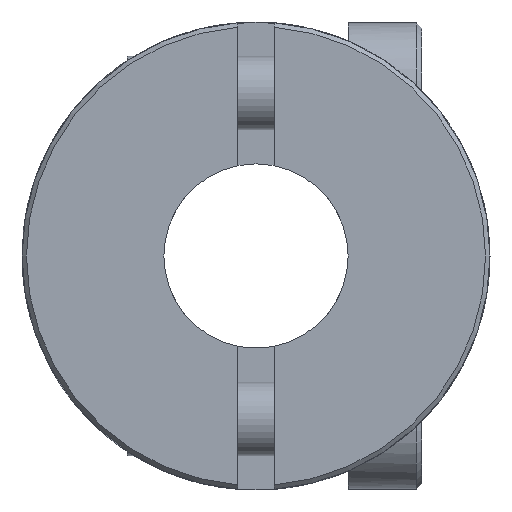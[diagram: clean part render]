
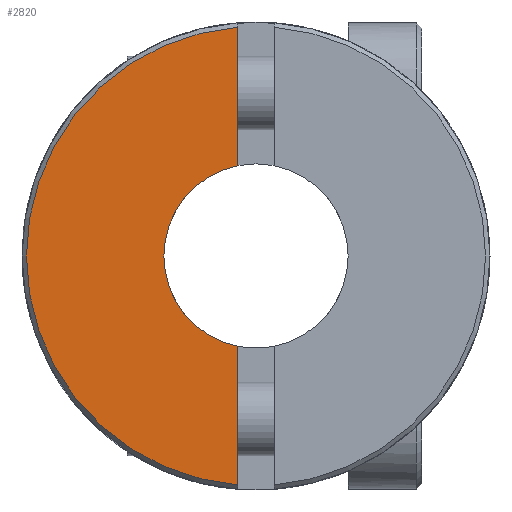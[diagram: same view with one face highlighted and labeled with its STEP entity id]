
A CAD part, front view. The second image highlights one B-rep face of the part: STEP entity #2820.
In plain terms, the highlighted planar face has unit normal (0, -1, 0).
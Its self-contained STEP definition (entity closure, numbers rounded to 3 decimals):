
#1=DIRECTION('',(0.,0.,-1.));
#2=VECTOR('',#1,3.76);
#3=CARTESIAN_POINT('',(-0.5,-9.55,6.21));
#4=LINE('',#3,#2);
#5=DIRECTION('',(0.,0.,-1.));
#6=VECTOR('',#5,3.76);
#7=CARTESIAN_POINT('',(-0.5,-9.55,-2.449));
#8=LINE('',#7,#6);
#72=CARTESIAN_POINT('',(0.,-9.55,0.));
#73=DIRECTION('',(0.,1.,0.));
#74=DIRECTION('',(-0.2,0.,-0.98));
#75=AXIS2_PLACEMENT_3D('',#72,#73,#74);
#1956=CARTESIAN_POINT('',(0.,-9.55,0.));
#1957=DIRECTION('',(0.,-1.,0.));
#1958=DIRECTION('',(-0.08,0.,0.997));
#1959=AXIS2_PLACEMENT_3D('',#1956,#1957,#1958);
#2559=CARTESIAN_POINT('',(-0.5,-9.55,6.21));
#2560=CARTESIAN_POINT('',(-0.5,-9.55,2.449));
#2561=VERTEX_POINT('',#2559);
#2562=VERTEX_POINT('',#2560);
#2563=CARTESIAN_POINT('',(-0.5,-9.55,-2.449));
#2564=CARTESIAN_POINT('',(-0.5,-9.55,-6.21));
#2565=VERTEX_POINT('',#2563);
#2566=VERTEX_POINT('',#2564);
#2805=CARTESIAN_POINT('',(0.,-9.55,0.));
#2806=DIRECTION('',(0.,1.,0.));
#2807=DIRECTION('',(1.,0.,0.));
#2808=AXIS2_PLACEMENT_3D('',#2805,#2806,#2807);
#2809=PLANE('',#2808);
#2811=ORIENTED_EDGE('',*,*,#2810,.T.);
#2813=ORIENTED_EDGE('',*,*,#2812,.F.);
#2815=ORIENTED_EDGE('',*,*,#2814,.T.);
#2817=ORIENTED_EDGE('',*,*,#2816,.F.);
#2818=EDGE_LOOP('',(#2811,#2813,#2815,#2817));
#2819=FACE_OUTER_BOUND('',#2818,.F.);
#2820=ADVANCED_FACE('',(#2819),#2809,.F.);
#76=CIRCLE('',#75,2.5);
#1960=CIRCLE('',#1959,6.23);
#2810=EDGE_CURVE('',#2561,#2562,#4,.T.);
#2812=EDGE_CURVE('',#2565,#2562,#76,.T.);
#2814=EDGE_CURVE('',#2565,#2566,#8,.T.);
#2816=EDGE_CURVE('',#2561,#2566,#1960,.T.);
